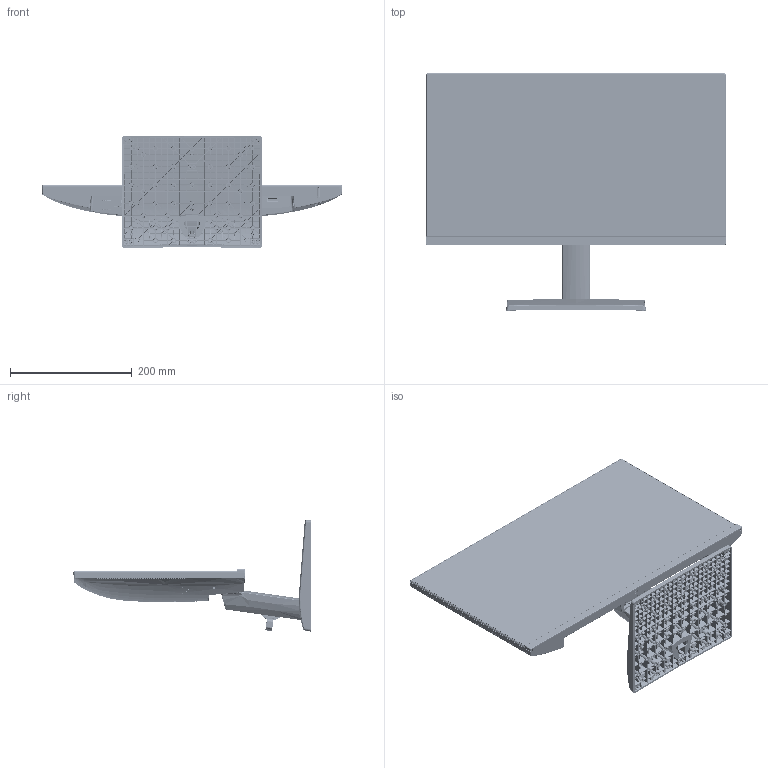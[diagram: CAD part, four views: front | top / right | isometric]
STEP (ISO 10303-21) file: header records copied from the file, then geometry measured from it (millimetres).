
FILE_DESCRIPTION(/* description */ (''),/* implementation_level */ '2;1');
FILE_NAME(/* name */ 'NF215-B01_ZH09_+线扣-带电源.stp',/* time_stamp */ '2026-04-14T18:41:58+08:00',/* author */ (''),/* organization */ (''),/* preprocessor_version */ 'ST-DEVELOPER v20',/* originating_system */ 'SIEMENS PLM Software NX2412.1700',/* authorisation */ '');
FILE_SCHEMA (('AP203_CONFIGURATION_CONTROLLED_3D_DESIGN_OF_MECHANICAL_PARTS_AND_ASSEMBLIES_MIM_LF { 1 0 10303 403 2 1 2}'));
Products named in the file (1): NF215-B01_ZH09_+线扣-16041301_stp_objects
Bounding box: 492.96 x 389.91 x 183.29 mm (x, y, z)
Volume: 967118.6 mm3; surface area: 1460408.6 mm2
Topology: 24 solids, 25 shells, 12738 faces, 35657 edges, 23458 vertices
Faces by surface type: plane 6672, cylinder 4030, bspline 1190, cone 353, torus 200, extrusion 197, sphere 96
Full cylindrical faces by diameter (mm): 1.2 x86, 1.5 x6, 1.8 x1, 2.5 x30, 3.3 x4, 3.4 x6, 3.5 x22, 3.6 x7, 3.8 x2, 4.1 x4, 4.5 x6, 5 x19, 5.5 x58, 5.7 x4, 6 x2, 6.3 x1, 6.5 x1, 7 x2, 8 x2, 10.3 x10, 12.8 x10, 15.466 x1
Entity records: 497179 total; most frequent: CARTESIAN_POINT 191600, ORIENTED_EDGE 70042, DIRECTION 49648, EDGE_CURVE 35021, VERTEX_POINT 23187, VECTOR 17204, LINE 17007, AXIS2_PLACEMENT_3D 16222
